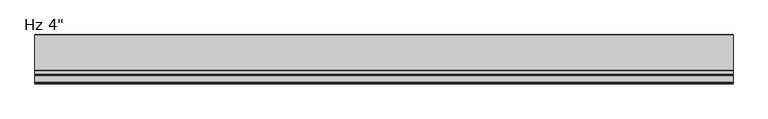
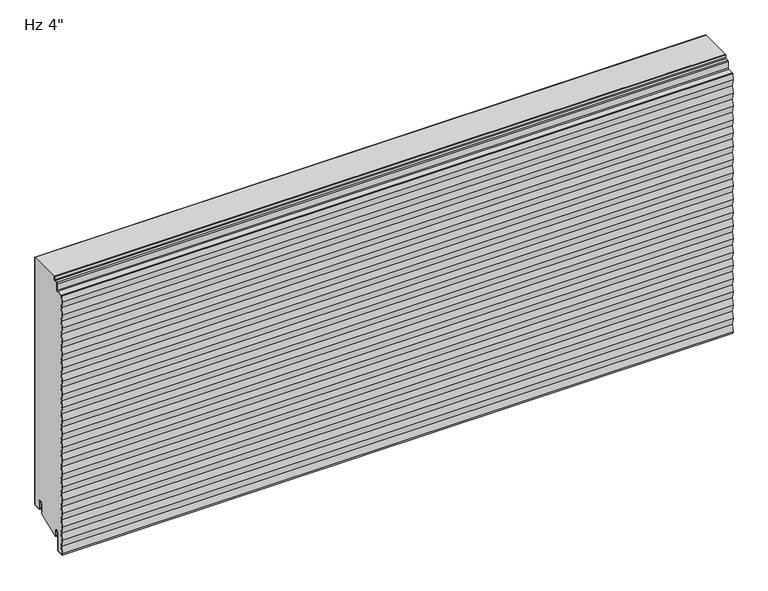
"""IFC4 building model written with IfcOpenShell, lengths in millimetres: plate geometry."""

from ifc_helpers import new_model, si_unit, point, frame, frame_2d, origin, place, context, project, spatial, polyline, circle_curve, trimmed, segment, composite_curve, outline, extrude, source, transform, mapped, element, save


def plate_d13a5570(model_context):
    return source(origin(), model_context, "Body", "SweptSolid", [
        extrude(outline(composite_curve([segment(trimmed(circle_curve(frame_2d((-21.43125, 19.05)), 4.96875), [point((-16.4625, 19.05))], [point((-26.4, 19.05))], True, "CARTESIAN"), True, "CONTINUOUS"), segment(polyline([(-26.4, 19.05), (-26.4, -3.1323422), (-74.6157227, -23.01875), (-76.2, -23.01875), (-76.2, -13.5080174), (-76.99375, -13.5080174), (-76.7875, -11.9205174)]), True, "CONTINUOUS"), segment(trimmed(circle_curve(frame_2d((-81.75625, -11.9205174)), 4.96875), [point((-76.7875, -11.9205174))], [point((-86.725, -11.9205174))], True, "CARTESIAN"), True, "CONTINUOUS"), segment(polyline([(-86.725, -11.9205174), (-86.725, -50.1038221)]), True, "CONTINUOUS"), segment(trimmed(circle_curve(frame_2d((-88.10625, -50.1038221)), 1.38125), [point((-86.725, -50.1038221))], [point((-88.033961, -51.4831791))], False, "CARTESIAN"), True, "CONTINUOUS"), segment(polyline([(-88.033961, -51.4831791), (-101.2062471, -52.1735094), (-101.7378194, -48.8511825), (-99.2994194, -33.6111825), (-101.7378194, -18.3711825), (-99.2994194, -3.1311825), (-101.7378194, 12.1088175), (-99.2994194, 27.3488175), (-101.7378194, 42.5888175), (-99.2994194, 57.8288175), (-101.7378194, 73.0688175), (-99.2994194, 88.3088175), (-101.7378194, 103.5488175), (-99.2994194, 118.7888175), (-101.7378194, 134.0288175), (-99.2994194, 149.2688175), (-101.7378194, 164.5088175), (-99.2994194, 179.7488175), (-101.7378194, 194.9888175), (-99.2994194, 210.2288175), (-101.7378194, 225.4688175), (-99.2994194, 240.7088175), (-101.7378194, 255.9488175), (-99.2994194, 271.1888175), (-101.7378194, 286.4288175), (-99.2994194, 301.6688175), (-101.7378194, 316.9088175), (-99.2994194, 332.1488175), (-101.7378194, 347.3888175), (-99.2994194, 362.6288175), (-101.7378194, 377.8688175), (-99.2994194, 393.1088175), (-101.7378194, 408.3488175), (-99.2994194, 423.5888175), (-101.7378194, 438.8288175), (-99.2994194, 454.0688175), (-101.7378194, 469.3088175), (-99.2994194, 484.5488175), (-101.7378194, 499.7888175), (-99.2994194, 515.0288175), (-101.7054086, 530.06625), (-99.6673048, 542.8043985), (-85.5895807, 543.5421807)]), True, "CONTINUOUS"), segment(trimmed(circle_curve(frame_2d((-85.725, 546.1261347)), 2.5875), [point((-85.5895807, 543.5421807))], [point((-83.1375, 546.1261347))], True, "CARTESIAN"), True, "CONTINUOUS"), segment(polyline([(-83.1375, 546.1261347), (-83.1375, 560.2824411)]), True, "CONTINUOUS"), segment(trimmed(circle_curve(frame_2d((-81.75625, 560.2824411)), 1.38125), [point((-83.1375, 560.2824411))], [point((-81.828539, 561.6617981))], False, "CARTESIAN"), True, "CONTINUOUS"), segment(polyline([(-81.828539, 561.6617981), (-76.0645807, 561.9638744)]), True, "CONTINUOUS"), segment(trimmed(circle_curve(frame_2d((-76.2, 564.5478283)), 2.5875), [point((-76.0645807, 561.9638744))], [point((-73.6125, 564.5478283))], True, "CARTESIAN"), True, "CONTINUOUS"), segment(polyline([(-73.6125, 564.5478283), (-73.6125, 571.2), (-1.0, 571.2), (-1.0, 3.175)]), True, "CONTINUOUS"), segment(trimmed(circle_curve(frame_2d((-2.38125, 3.175)), 1.38125), [point((-1.0, 3.175))], [point((-2.38125, 1.79375))], False, "CARTESIAN"), True, "CONTINUOUS"), segment(polyline([(-2.38125, 1.79375), (-15.08125, 1.79375)]), True, "CONTINUOUS"), segment(trimmed(circle_curve(frame_2d((-15.08125, 3.175)), 1.38125), [point((-15.08125, 1.79375))], [point((-16.4625, 3.175))], False, "CARTESIAN"), True, "CONTINUOUS"), segment(polyline([(-16.4625, 3.175), (-16.4625, 19.05)]), True, "CONTINUOUS")], self_intersect=False)), frame((-730.0, 0.0, 0.0), z_axis=(1.0, 0.0, 0.0), x_axis=(0.0, 1.0, 0.0)), (0.0, 0.0, 1.0), 1460.0),
        extrude(outline(composite_curve([segment(polyline([(-25.4, 0.79375), (-26.4, 0.79375), (-26.4, 19.05)]), True, "CONTINUOUS"), segment(trimmed(circle_curve(frame_2d((-21.43125, 19.05)), 4.96875), [point((-26.4, 19.05))], [point((-16.4625, 19.05))], False, "CARTESIAN"), True, "CONTINUOUS"), segment(polyline([(-16.4625, 19.05), (-16.4625, 3.175)]), True, "CONTINUOUS"), segment(trimmed(circle_curve(frame_2d((-15.08125, 3.175)), 1.38125), [point((-16.4625, 3.175))], [point((-15.08125, 1.79375))], True, "CARTESIAN"), True, "CONTINUOUS"), segment(polyline([(-15.08125, 1.79375), (-2.38125, 1.79375)]), True, "CONTINUOUS"), segment(trimmed(circle_curve(frame_2d((-2.38125, 3.175)), 1.38125), [point((-2.38125, 1.79375))], [point((-1.0, 3.175))], True, "CARTESIAN"), True, "CONTINUOUS"), segment(polyline([(-1.0, 3.175), (-1.0, 571.2), (0.0, 571.2), (0.0, 3.175)]), True, "CONTINUOUS"), segment(trimmed(circle_curve(frame_2d((-2.38125, 3.175)), 2.38125), [point((0.0, 3.175))], [point((-2.38125, 0.79375))], False, "CARTESIAN"), True, "CONTINUOUS"), segment(polyline([(-2.38125, 0.79375), (-15.08125, 0.79375)]), True, "CONTINUOUS"), segment(trimmed(circle_curve(frame_2d((-15.08125, 3.175)), 2.38125), [point((-15.08125, 0.79375))], [point((-17.4625, 3.175))], False, "CARTESIAN"), True, "CONTINUOUS"), segment(polyline([(-17.4625, 3.175), (-17.4625, 19.05)]), True, "CONTINUOUS"), segment(trimmed(circle_curve(frame_2d((-21.43125, 19.05)), 3.96875), [point((-17.4625, 19.05))], [point((-25.4, 19.05))], True, "CARTESIAN"), True, "CONTINUOUS"), segment(polyline([(-25.4, 19.05), (-25.4, 0.79375)]), True, "CONTINUOUS")], self_intersect=False)), frame((-730.0, 0.0, 0.0), z_axis=(1.0, 0.0, 0.0), x_axis=(0.0, 1.0, 0.0)), (0.0, 0.0, 1.0), 1460.0),
        extrude(outline(composite_curve([segment(trimmed(circle_curve(frame_2d((-76.99375, -23.2314549)), 0.79375), [point((-76.2, -23.2314549))], [point((-77.7875, -23.2314549))], False, "CARTESIAN"), True, "CONTINUOUS"), segment(polyline([(-77.7875, -23.2314549), (-77.7875, -11.9205174)]), True, "CONTINUOUS"), segment(trimmed(circle_curve(frame_2d((-81.75625, -11.9205174)), 3.96875), [point((-77.7875, -11.9205174))], [point((-85.725, -11.9205174))], True, "CARTESIAN"), True, "CONTINUOUS"), segment(polyline([(-85.725, -11.9205174), (-85.725, -50.1038221)]), True, "CONTINUOUS"), segment(trimmed(circle_curve(frame_2d((-88.10625, -50.1038221)), 2.38125), [point((-85.725, -50.1038221))], [point((-87.981625, -52.4818086))], False, "CARTESIAN"), True, "CONTINUOUS"), segment(polyline([(-87.981625, -52.4818086), (-102.1543553, -53.22457), (-102.8509395, -48.8709186), (-100.4125395, -33.6309186), (-102.8509395, -18.3909186), (-100.4125395, -3.1509186), (-102.8509395, 12.0890814), (-100.4125395, 27.3290814), (-102.8509395, 42.5690814), (-100.4125395, 57.8090814), (-102.8509395, 73.0490814), (-100.4125395, 88.2890814), (-102.8509395, 103.5290814), (-100.4125395, 118.7690814), (-102.8509395, 134.0090814), (-100.4125395, 149.2490814), (-102.8509395, 164.4890814), (-100.4125395, 179.7290814), (-102.8509395, 194.9690814), (-100.4125395, 210.2090814), (-102.8509395, 225.4490814), (-100.4125395, 240.6890814), (-102.8509395, 255.9290814), (-100.4125395, 271.1690814), (-102.8509395, 286.4090814), (-100.4125395, 301.6490814), (-102.8509395, 316.8890814), (-100.4125395, 332.1290814), (-102.8509395, 347.3690814), (-100.4125395, 362.6090814), (-102.8509395, 377.8490814), (-100.4125395, 393.0890814), (-102.8509395, 408.3290814), (-100.4125395, 423.5690814), (-102.8509395, 438.8090814), (-100.4125395, 454.0490814), (-102.8509395, 469.2890814), (-100.4125395, 484.5290814), (-102.8509395, 499.7690814), (-100.4125395, 515.0090814), (-102.8185287, 530.0465139), (-100.8278537, 542.4882328)]), True, "CONTINUOUS"), segment(trimmed(circle_curve(frame_2d((-99.2602917, 542.2374229)), 1.5875), [point((-100.8278537, 542.4882328))], [point((-99.343375, 543.8227473))], False, "CARTESIAN"), True, "CONTINUOUS"), segment(polyline([(-99.343375, 543.8227473), (-85.6419167, 544.5408103)]), True, "CONTINUOUS"), segment(trimmed(circle_curve(frame_2d((-85.725, 546.1261347)), 1.5875), [point((-85.6419167, 544.5408103))], [point((-84.1375, 546.1261347))], True, "CARTESIAN"), True, "CONTINUOUS"), segment(polyline([(-84.1375, 546.1261347), (-84.1375, 560.2824411)]), True, "CONTINUOUS"), segment(trimmed(circle_curve(frame_2d((-81.75625, 560.2824411)), 2.38125), [point((-84.1375, 560.2824411))], [point((-81.880875, 562.6604276))], False, "CARTESIAN"), True, "CONTINUOUS"), segment(polyline([(-81.880875, 562.6604276), (-76.1169167, 562.9625039)]), True, "CONTINUOUS"), segment(trimmed(circle_curve(frame_2d((-76.2, 564.5478283)), 1.5875), [point((-76.1169167, 562.9625039))], [point((-74.6125, 564.5478283))], True, "CARTESIAN"), True, "CONTINUOUS"), segment(polyline([(-74.6125, 564.5478283), (-74.6125, 571.2), (-73.6125, 571.2), (-73.6125, 564.5478283)]), True, "CONTINUOUS"), segment(trimmed(circle_curve(frame_2d((-76.2, 564.5478283)), 2.5875), [point((-73.6125, 564.5478283))], [point((-76.0645807, 561.9638744))], False, "CARTESIAN"), True, "CONTINUOUS"), segment(polyline([(-76.0645807, 561.9638744), (-81.828539, 561.6617981)]), True, "CONTINUOUS"), segment(trimmed(circle_curve(frame_2d((-81.75625, 560.2824411)), 1.38125), [point((-81.828539, 561.6617981))], [point((-83.1375, 560.2824411))], True, "CARTESIAN"), True, "CONTINUOUS"), segment(polyline([(-83.1375, 560.2824411), (-83.1375, 546.1261347)]), True, "CONTINUOUS"), segment(trimmed(circle_curve(frame_2d((-85.725, 546.1261347)), 2.5875), [point((-83.1375, 546.1261347))], [point((-85.5895807, 543.5421807))], False, "CARTESIAN"), True, "CONTINUOUS"), segment(polyline([(-85.5895807, 543.5421807), (-99.291039, 542.8241177)]), True, "CONTINUOUS"), segment(trimmed(circle_curve(frame_2d((-99.2602917, 542.2374229)), 0.5875), [point((-99.291039, 542.8241177))], [point((-99.840413, 542.3302423))], True, "CARTESIAN"), True, "CONTINUOUS"), segment(polyline([(-99.840413, 542.3302423), (-101.8058096, 530.0465139), (-99.3998204, 515.0090814), (-101.8382204, 499.7690814), (-99.3998204, 484.5290814), (-101.8382204, 469.2890814), (-99.3998204, 454.0490814), (-101.8382204, 438.8090814), (-99.3998204, 423.5690814), (-101.8382204, 408.3290814), (-99.3998204, 393.0890814), (-101.8382204, 377.8490814), (-99.3998204, 362.6090814), (-101.8382204, 347.3690814), (-99.3998204, 332.1290814), (-101.8382204, 316.8890814), (-99.3998204, 301.6490814), (-101.8382204, 286.4090814), (-99.3998204, 271.1690814), (-101.8382204, 255.9290814), (-99.3998204, 240.6890814), (-101.8382204, 225.4490814), (-99.3998204, 210.2090814), (-101.8382204, 194.9690814), (-99.3998204, 179.7290814), (-101.8382204, 164.4890814), (-99.3998204, 149.2490814), (-101.8382204, 134.0090814), (-99.3998204, 118.7690814), (-101.8382204, 103.5290814), (-99.3998204, 88.2890814), (-101.8382204, 73.0490814), (-99.3998204, 57.8090814), (-101.8382204, 42.5690814), (-99.3998204, 27.3290814), (-101.8382204, 12.0890814), (-99.3998204, -3.1509186), (-101.8382204, -18.3909186), (-99.3998204, -33.6309186), (-101.8382204, -48.8709186), (-101.3089447, -52.1788915), (-88.033961, -51.4831791)]), True, "CONTINUOUS"), segment(trimmed(circle_curve(frame_2d((-88.10625, -50.1038221)), 1.38125), [point((-88.033961, -51.4831791))], [point((-86.725, -50.1038221))], True, "CARTESIAN"), True, "CONTINUOUS"), segment(polyline([(-86.725, -50.1038221), (-86.725, -11.9205174)]), True, "CONTINUOUS"), segment(trimmed(circle_curve(frame_2d((-81.75625, -11.9205174)), 4.96875), [point((-86.725, -11.9205174))], [point((-76.7875, -11.9205174))], False, "CARTESIAN"), True, "CONTINUOUS"), segment(polyline([(-76.7875, -11.9205174), (-76.99375, -13.5080174), (-76.2, -13.5080174), (-76.2, -23.2314549)]), True, "CONTINUOUS")], self_intersect=False)), frame((-730.0, 0.0, 0.0), z_axis=(1.0, 0.0, 0.0), x_axis=(0.0, 1.0, 0.0)), (0.0, 0.0, 1.0), 1460.0),
    ])


if __name__ == "__main__":
    model = new_model("IFC4")
    model_context = context("Model", 3, world=origin())
    ifc_project = project(units=[si_unit("LENGTHUNIT", "METRE", prefix="MILLI")], contexts=[model_context])
    site = spatial("IfcSite", under=ifc_project)
    building = spatial("IfcBuilding", under=site)
    placement = place(None, origin())
    plate_shape = plate_d13a5570(model_context)
    element("IfcPlate", 1, ObjectType="KIP-24-DWHR-R19-CP-Hz-S : Hz 4\"", at=placement, inside=building, context=model_context, shape_type="MappedRepresentation", body=[
        mapped(plate_shape, transform((0.0, 0.0, 0.0), x_axis=(1.0, 0.0, 0.0), y_axis=(0.0, 1.0, 0.0), z_axis=(0.0, 0.0, 1.0))),
    ])
    save(model, "model.ifc")
